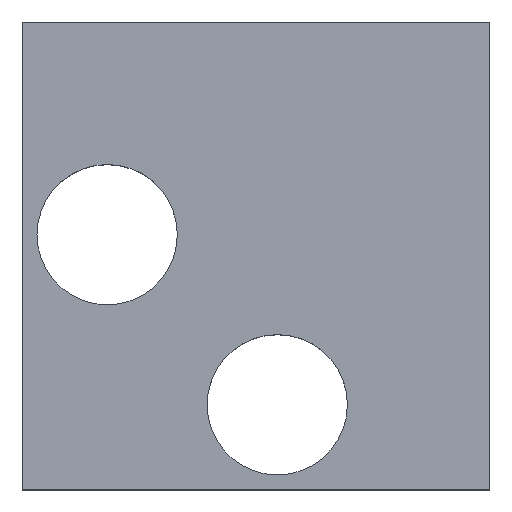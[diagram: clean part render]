
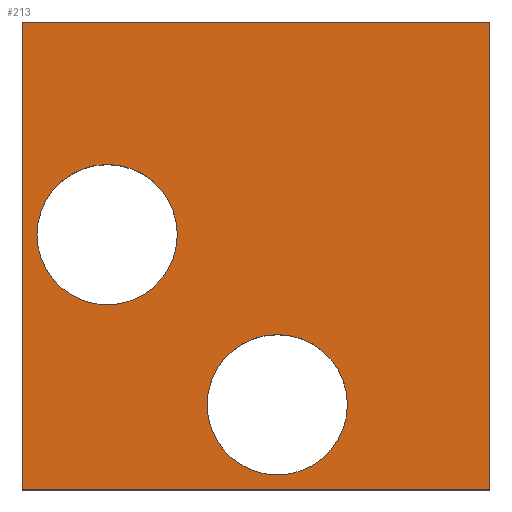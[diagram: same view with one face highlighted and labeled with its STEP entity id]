
A CAD part, top view. The second image highlights one B-rep face of the part: STEP entity #213.
In plain terms, the highlighted planar face has unit normal (0, 0, 1).
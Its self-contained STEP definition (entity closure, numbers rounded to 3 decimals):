
#24 = VERTEX_POINT('',#25);
#25 = CARTESIAN_POINT('',(0.,0.,2.4));
#32 = PLANE('',#33);
#33 = AXIS2_PLACEMENT_3D('',#34,#35,#36);
#34 = CARTESIAN_POINT('',(0.,0.,0.));
#35 = DIRECTION('',(1.,0.,-0.));
#36 = DIRECTION('',(0.,0.,1.));
#44 = PLANE('',#45);
#45 = AXIS2_PLACEMENT_3D('',#46,#47,#48);
#46 = CARTESIAN_POINT('',(0.,0.,0.));
#47 = DIRECTION('',(-0.,1.,0.));
#48 = DIRECTION('',(0.,0.,1.));
#85 = VERTEX_POINT('',#86);
#86 = CARTESIAN_POINT('',(0.,11.,2.4));
#100 = PLANE('',#101);
#101 = AXIS2_PLACEMENT_3D('',#102,#103,#104);
#102 = CARTESIAN_POINT('',(0.,11.,0.));
#103 = DIRECTION('',(-0.,1.,0.));
#104 = DIRECTION('',(0.,0.,1.));
#112 = EDGE_CURVE('',#24,#85,#113,.T.);
#113 = SURFACE_CURVE('',#114,(#118,#125),.PCURVE_S1.);
#114 = LINE('',#115,#116);
#115 = CARTESIAN_POINT('',(0.,0.,2.4));
#116 = VECTOR('',#117,1.);
#117 = DIRECTION('',(-0.,1.,0.));
#118 = PCURVE('',#32,#119);
#119 = DEFINITIONAL_REPRESENTATION('',(#120),#124);
#120 = LINE('',#121,#122);
#121 = CARTESIAN_POINT('',(2.4,0.));
#122 = VECTOR('',#123,1.);
#123 = DIRECTION('',(0.,-1.));
#124 = ( GEOMETRIC_REPRESENTATION_CONTEXT(2) 
PARAMETRIC_REPRESENTATION_CONTEXT() REPRESENTATION_CONTEXT('2D SPACE',''
  ) );
#125 = PCURVE('',#126,#131);
#126 = PLANE('',#127);
#127 = AXIS2_PLACEMENT_3D('',#128,#129,#130);
#128 = CARTESIAN_POINT('',(0.,0.,2.4));
#129 = DIRECTION('',(0.,0.,1.));
#130 = DIRECTION('',(1.,0.,-0.));
#131 = DEFINITIONAL_REPRESENTATION('',(#132),#136);
#132 = LINE('',#133,#134);
#133 = CARTESIAN_POINT('',(0.,0.));
#134 = VECTOR('',#135,1.);
#135 = DIRECTION('',(0.,1.));
#136 = ( GEOMETRIC_REPRESENTATION_CONTEXT(2) 
PARAMETRIC_REPRESENTATION_CONTEXT() REPRESENTATION_CONTEXT('2D SPACE',''
  ) );
#165 = EDGE_CURVE('',#24,#166,#168,.T.);
#166 = VERTEX_POINT('',#167);
#167 = CARTESIAN_POINT('',(11.,0.,2.4));
#168 = SURFACE_CURVE('',#169,(#173,#180),.PCURVE_S1.);
#169 = LINE('',#170,#171);
#170 = CARTESIAN_POINT('',(0.,0.,2.4));
#171 = VECTOR('',#172,1.);
#172 = DIRECTION('',(1.,0.,-0.));
#173 = PCURVE('',#44,#174);
#174 = DEFINITIONAL_REPRESENTATION('',(#175),#179);
#175 = LINE('',#176,#177);
#176 = CARTESIAN_POINT('',(2.4,0.));
#177 = VECTOR('',#178,1.);
#178 = DIRECTION('',(0.,1.));
#179 = ( GEOMETRIC_REPRESENTATION_CONTEXT(2) 
PARAMETRIC_REPRESENTATION_CONTEXT() REPRESENTATION_CONTEXT('2D SPACE',''
  ) );
#180 = PCURVE('',#126,#181);
#181 = DEFINITIONAL_REPRESENTATION('',(#182),#186);
#182 = LINE('',#183,#184);
#183 = CARTESIAN_POINT('',(0.,0.));
#184 = VECTOR('',#185,1.);
#185 = DIRECTION('',(1.,0.));
#186 = ( GEOMETRIC_REPRESENTATION_CONTEXT(2) 
PARAMETRIC_REPRESENTATION_CONTEXT() REPRESENTATION_CONTEXT('2D SPACE',''
  ) );
#202 = PLANE('',#203);
#203 = AXIS2_PLACEMENT_3D('',#204,#205,#206);
#204 = CARTESIAN_POINT('',(11.,0.,0.));
#205 = DIRECTION('',(1.,0.,-0.));
#206 = DIRECTION('',(0.,0.,1.));
#213 = ADVANCED_FACE('',(#214,#262,#293),#126,.T.);
#214 = FACE_BOUND('',#215,.T.);
#215 = EDGE_LOOP('',(#216,#217,#218,#241));
#216 = ORIENTED_EDGE('',*,*,#112,.F.);
#217 = ORIENTED_EDGE('',*,*,#165,.T.);
#218 = ORIENTED_EDGE('',*,*,#219,.T.);
#219 = EDGE_CURVE('',#166,#220,#222,.T.);
#220 = VERTEX_POINT('',#221);
#221 = CARTESIAN_POINT('',(11.,11.,2.4));
#222 = SURFACE_CURVE('',#223,(#227,#234),.PCURVE_S1.);
#223 = LINE('',#224,#225);
#224 = CARTESIAN_POINT('',(11.,0.,2.4));
#225 = VECTOR('',#226,1.);
#226 = DIRECTION('',(-0.,1.,0.));
#227 = PCURVE('',#126,#228);
#228 = DEFINITIONAL_REPRESENTATION('',(#229),#233);
#229 = LINE('',#230,#231);
#230 = CARTESIAN_POINT('',(11.,0.));
#231 = VECTOR('',#232,1.);
#232 = DIRECTION('',(0.,1.));
#233 = ( GEOMETRIC_REPRESENTATION_CONTEXT(2) 
PARAMETRIC_REPRESENTATION_CONTEXT() REPRESENTATION_CONTEXT('2D SPACE',''
  ) );
#234 = PCURVE('',#202,#235);
#235 = DEFINITIONAL_REPRESENTATION('',(#236),#240);
#236 = LINE('',#237,#238);
#237 = CARTESIAN_POINT('',(2.4,0.));
#238 = VECTOR('',#239,1.);
#239 = DIRECTION('',(0.,-1.));
#240 = ( GEOMETRIC_REPRESENTATION_CONTEXT(2) 
PARAMETRIC_REPRESENTATION_CONTEXT() REPRESENTATION_CONTEXT('2D SPACE',''
  ) );
#241 = ORIENTED_EDGE('',*,*,#242,.F.);
#242 = EDGE_CURVE('',#85,#220,#243,.T.);
#243 = SURFACE_CURVE('',#244,(#248,#255),.PCURVE_S1.);
#244 = LINE('',#245,#246);
#245 = CARTESIAN_POINT('',(0.,11.,2.4));
#246 = VECTOR('',#247,1.);
#247 = DIRECTION('',(1.,0.,-0.));
#248 = PCURVE('',#126,#249);
#249 = DEFINITIONAL_REPRESENTATION('',(#250),#254);
#250 = LINE('',#251,#252);
#251 = CARTESIAN_POINT('',(0.,11.));
#252 = VECTOR('',#253,1.);
#253 = DIRECTION('',(1.,0.));
#254 = ( GEOMETRIC_REPRESENTATION_CONTEXT(2) 
PARAMETRIC_REPRESENTATION_CONTEXT() REPRESENTATION_CONTEXT('2D SPACE',''
  ) );
#255 = PCURVE('',#100,#256);
#256 = DEFINITIONAL_REPRESENTATION('',(#257),#261);
#257 = LINE('',#258,#259);
#258 = CARTESIAN_POINT('',(2.4,0.));
#259 = VECTOR('',#260,1.);
#260 = DIRECTION('',(0.,1.));
#261 = ( GEOMETRIC_REPRESENTATION_CONTEXT(2) 
PARAMETRIC_REPRESENTATION_CONTEXT() REPRESENTATION_CONTEXT('2D SPACE',''
  ) );
#262 = FACE_BOUND('',#263,.T.);
#263 = EDGE_LOOP('',(#264));
#264 = ORIENTED_EDGE('',*,*,#265,.F.);
#265 = EDGE_CURVE('',#266,#266,#268,.T.);
#266 = VERTEX_POINT('',#267);
#267 = CARTESIAN_POINT('',(7.65,2.,2.4));
#268 = SURFACE_CURVE('',#269,(#274,#281),.PCURVE_S1.);
#269 = CIRCLE('',#270,1.65);
#270 = AXIS2_PLACEMENT_3D('',#271,#272,#273);
#271 = CARTESIAN_POINT('',(6.,2.,2.4));
#272 = DIRECTION('',(0.,0.,1.));
#273 = DIRECTION('',(1.,0.,-0.));
#274 = PCURVE('',#126,#275);
#275 = DEFINITIONAL_REPRESENTATION('',(#276),#280);
#276 = CIRCLE('',#277,1.65);
#277 = AXIS2_PLACEMENT_2D('',#278,#279);
#278 = CARTESIAN_POINT('',(6.,2.));
#279 = DIRECTION('',(1.,0.));
#280 = ( GEOMETRIC_REPRESENTATION_CONTEXT(2) 
PARAMETRIC_REPRESENTATION_CONTEXT() REPRESENTATION_CONTEXT('2D SPACE',''
  ) );
#281 = PCURVE('',#282,#287);
#282 = CYLINDRICAL_SURFACE('',#283,1.65);
#283 = AXIS2_PLACEMENT_3D('',#284,#285,#286);
#284 = CARTESIAN_POINT('',(6.,2.,-0.1));
#285 = DIRECTION('',(0.,0.,1.));
#286 = DIRECTION('',(1.,0.,-0.));
#287 = DEFINITIONAL_REPRESENTATION('',(#288),#292);
#288 = LINE('',#289,#290);
#289 = CARTESIAN_POINT('',(0.,2.5));
#290 = VECTOR('',#291,1.);
#291 = DIRECTION('',(1.,0.));
#292 = ( GEOMETRIC_REPRESENTATION_CONTEXT(2) 
PARAMETRIC_REPRESENTATION_CONTEXT() REPRESENTATION_CONTEXT('2D SPACE',''
  ) );
#293 = FACE_BOUND('',#294,.T.);
#294 = EDGE_LOOP('',(#295));
#295 = ORIENTED_EDGE('',*,*,#296,.F.);
#296 = EDGE_CURVE('',#297,#297,#299,.T.);
#297 = VERTEX_POINT('',#298);
#298 = CARTESIAN_POINT('',(3.65,6.,2.4));
#299 = SURFACE_CURVE('',#300,(#305,#312),.PCURVE_S1.);
#300 = CIRCLE('',#301,1.65);
#301 = AXIS2_PLACEMENT_3D('',#302,#303,#304);
#302 = CARTESIAN_POINT('',(2.,6.,2.4));
#303 = DIRECTION('',(0.,0.,1.));
#304 = DIRECTION('',(1.,0.,-0.));
#305 = PCURVE('',#126,#306);
#306 = DEFINITIONAL_REPRESENTATION('',(#307),#311);
#307 = CIRCLE('',#308,1.65);
#308 = AXIS2_PLACEMENT_2D('',#309,#310);
#309 = CARTESIAN_POINT('',(2.,6.));
#310 = DIRECTION('',(1.,0.));
#311 = ( GEOMETRIC_REPRESENTATION_CONTEXT(2) 
PARAMETRIC_REPRESENTATION_CONTEXT() REPRESENTATION_CONTEXT('2D SPACE',''
  ) );
#312 = PCURVE('',#313,#318);
#313 = CYLINDRICAL_SURFACE('',#314,1.65);
#314 = AXIS2_PLACEMENT_3D('',#315,#316,#317);
#315 = CARTESIAN_POINT('',(2.,6.,-0.1));
#316 = DIRECTION('',(0.,0.,1.));
#317 = DIRECTION('',(1.,0.,-0.));
#318 = DEFINITIONAL_REPRESENTATION('',(#319),#323);
#319 = LINE('',#320,#321);
#320 = CARTESIAN_POINT('',(0.,2.5));
#321 = VECTOR('',#322,1.);
#322 = DIRECTION('',(1.,0.));
#323 = ( GEOMETRIC_REPRESENTATION_CONTEXT(2) 
PARAMETRIC_REPRESENTATION_CONTEXT() REPRESENTATION_CONTEXT('2D SPACE',''
  ) );
